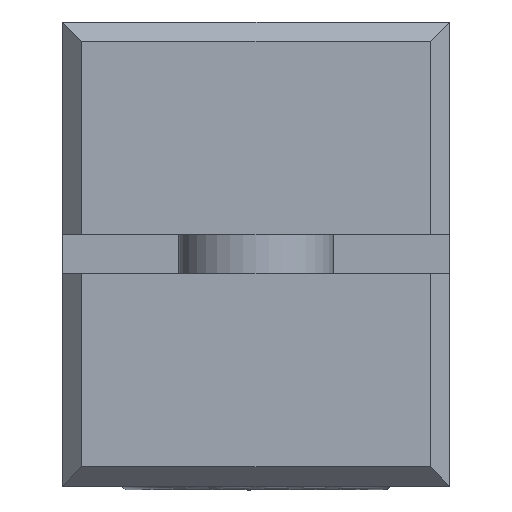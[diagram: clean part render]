
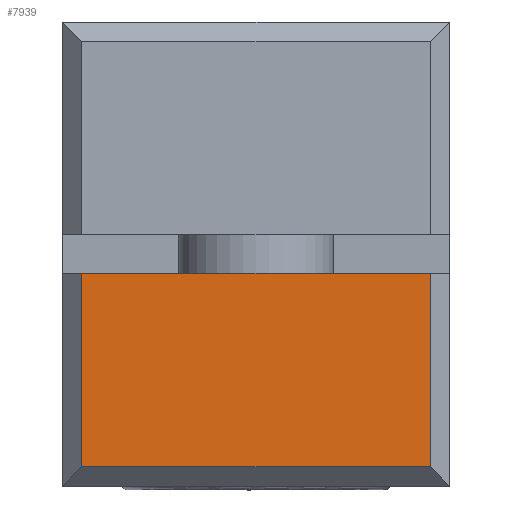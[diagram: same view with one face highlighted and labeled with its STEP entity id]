
A CAD part, left-side view. The second image highlights one B-rep face of the part: STEP entity #7939.
In plain terms, the highlighted planar face has unit normal (-1, 0, 0).
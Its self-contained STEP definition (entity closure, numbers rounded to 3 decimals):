
#162 = ORIENTED_EDGE ( 'NONE', *, *, #10196, .T. ) ;
#193 = LINE ( 'NONE', #5335, #5118 ) ;
#1094 = CARTESIAN_POINT ( 'NONE',  ( -12.739, 30.453, -3. ) ) ;
#1223 = VERTEX_POINT ( 'NONE', #5342 ) ;
#1521 = CARTESIAN_POINT ( 'NONE',  ( -12.739, 21.453, -5.5 ) ) ;
#1533 = LINE ( 'NONE', #8766, #6270 ) ;
#2233 = LINE ( 'NONE', #1094, #7302 ) ;
#2445 = DIRECTION ( 'NONE',  ( 0., 0., 1. ) ) ;
#2655 = CARTESIAN_POINT ( 'NONE',  ( -12.739, 30.453, -0.5 ) ) ;
#3362 = PLANE ( 'NONE',  #5773 ) ;
#4222 = EDGE_CURVE ( 'NONE', #7138, #1223, #1533, .T. ) ;
#4769 = VERTEX_POINT ( 'NONE', #6742 ) ;
#5118 = VECTOR ( 'NONE', #7253, 1000. ) ;
#5335 = CARTESIAN_POINT ( 'NONE',  ( -12.739, 25.953, -5.5 ) ) ;
#5342 = CARTESIAN_POINT ( 'NONE',  ( -12.739, 21.453, -5.5 ) ) ;
#5475 = ORIENTED_EDGE ( 'NONE', *, *, #9571, .T. ) ;
#5651 = ORIENTED_EDGE ( 'NONE', *, *, #4222, .F. ) ;
#5768 = ORIENTED_EDGE ( 'NONE', *, *, #6756, .T. ) ;
#5773 = AXIS2_PLACEMENT_3D ( 'NONE', #1521, #8156, #2445 ) ;
#5881 = DIRECTION ( 'NONE',  ( 0., 0., -1. ) ) ;
#6270 = VECTOR ( 'NONE', #5881, 1000. ) ;
#6321 = VECTOR ( 'NONE', #11173, 1000. ) ;
#6742 = CARTESIAN_POINT ( 'NONE',  ( -12.739, 30.453, -5.5 ) ) ;
#6756 = EDGE_CURVE ( 'NONE', #7138, #8830, #11416, .T. ) ;
#7138 = VERTEX_POINT ( 'NONE', #7382 ) ;
#7253 = DIRECTION ( 'NONE',  ( 0., -1., 0. ) ) ;
#7302 = VECTOR ( 'NONE', #9529, 1000. ) ;
#7382 = CARTESIAN_POINT ( 'NONE',  ( -12.739, 21.453, -0.5 ) ) ;
#7939 = ADVANCED_FACE ( 'NONE', ( #10916 ), #3362, .T. ) ;
#8156 = DIRECTION ( 'NONE',  ( -1., 0., 0. ) ) ;
#8766 = CARTESIAN_POINT ( 'NONE',  ( -12.739, 21.453, -3.267 ) ) ;
#8830 = VERTEX_POINT ( 'NONE', #2655 ) ;
#9492 = EDGE_LOOP ( 'NONE', ( #5475, #5651, #5768, #162 ) ) ;
#9529 = DIRECTION ( 'NONE',  ( 0., 0., -1. ) ) ;
#9571 = EDGE_CURVE ( 'NONE', #4769, #1223, #193, .T. ) ;
#10196 = EDGE_CURVE ( 'NONE', #8830, #4769, #2233, .T. ) ;
#10201 = CARTESIAN_POINT ( 'NONE',  ( -12.739, 25.953, -0.5 ) ) ;
#10916 = FACE_OUTER_BOUND ( 'NONE', #9492, .T. ) ;
#11173 = DIRECTION ( 'NONE',  ( 0., 1., 0. ) ) ;
#11416 = LINE ( 'NONE', #10201, #6321 ) ;
